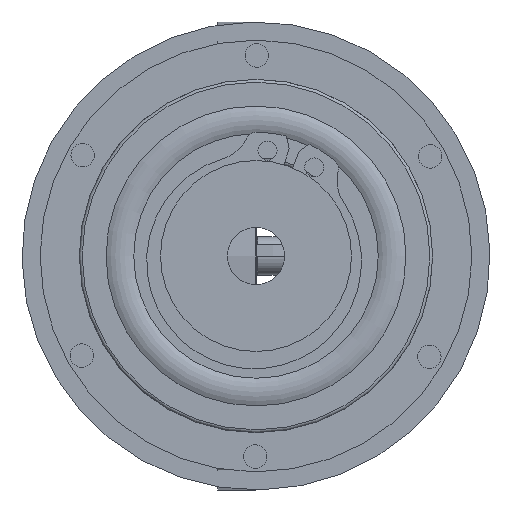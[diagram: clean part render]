
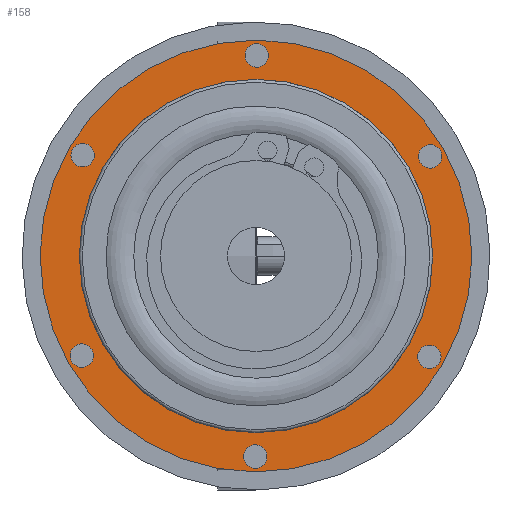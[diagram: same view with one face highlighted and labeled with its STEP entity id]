
A CAD part, left-side view. The second image highlights one B-rep face of the part: STEP entity #158.
In plain terms, the highlighted planar face has unit normal (-1, 0, 0).
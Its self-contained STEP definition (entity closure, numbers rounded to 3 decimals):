
#158 = ADVANCED_FACE( '', ( #262, #263, #264, #265, #266, #267, #268, #269 ), #270, .T. );
#262 = FACE_OUTER_BOUND( '', #398, .T. );
#263 = FACE_BOUND( '', #399, .T. );
#264 = FACE_BOUND( '', #400, .T. );
#265 = FACE_BOUND( '', #401, .T. );
#266 = FACE_BOUND( '', #402, .T. );
#267 = FACE_BOUND( '', #403, .T. );
#268 = FACE_BOUND( '', #404, .T. );
#269 = FACE_BOUND( '', #405, .T. );
#270 = PLANE( '', #406 );
#398 = EDGE_LOOP( '', ( #622 ) );
#399 = EDGE_LOOP( '', ( #623 ) );
#400 = EDGE_LOOP( '', ( #624 ) );
#401 = EDGE_LOOP( '', ( #625 ) );
#402 = EDGE_LOOP( '', ( #626 ) );
#403 = EDGE_LOOP( '', ( #627 ) );
#404 = EDGE_LOOP( '', ( #628 ) );
#405 = EDGE_LOOP( '', ( #629 ) );
#406 = AXIS2_PLACEMENT_3D( '', #630, #631, #632 );
#622 = ORIENTED_EDGE( '', *, *, #1001, .T. );
#623 = ORIENTED_EDGE( '', *, *, #993, .T. );
#624 = ORIENTED_EDGE( '', *, *, #1002, .T. );
#625 = ORIENTED_EDGE( '', *, *, #998, .T. );
#626 = ORIENTED_EDGE( '', *, *, #1003, .T. );
#627 = ORIENTED_EDGE( '', *, *, #1004, .T. );
#628 = ORIENTED_EDGE( '', *, *, #1005, .T. );
#629 = ORIENTED_EDGE( '', *, *, #1006, .F. );
#630 = CARTESIAN_POINT( '', ( 0., 18.5, 0. ) );
#631 = DIRECTION( '', ( -1., 0., 0. ) );
#632 = DIRECTION( '', ( 0., 0., 1. ) );
#993 = EDGE_CURVE( '', #1313, #1313, #1314, .T. );
#998 = EDGE_CURVE( '', #1321, #1321, #1322, .T. );
#1001 = EDGE_CURVE( '', #1326, #1326, #1327, .T. );
#1002 = EDGE_CURVE( '', #1328, #1328, #1329, .T. );
#1003 = EDGE_CURVE( '', #1330, #1330, #1331, .T. );
#1004 = EDGE_CURVE( '', #1332, #1332, #1333, .T. );
#1005 = EDGE_CURVE( '', #1334, #1334, #1335, .T. );
#1006 = EDGE_CURVE( '', #1336, #1336, #1337, .T. );
#1313 = VERTEX_POINT( '', #2068 );
#1314 = CIRCLE( '', #2069, 1.23 );
#1321 = VERTEX_POINT( '', #2076 );
#1322 = CIRCLE( '', #2077, 1.23 );
#1326 = VERTEX_POINT( '', #2081 );
#1327 = CIRCLE( '', #2082, 22.6 );
#1328 = VERTEX_POINT( '', #2083 );
#1329 = CIRCLE( '', #2084, 1.23 );
#1330 = VERTEX_POINT( '', #2085 );
#1331 = CIRCLE( '', #2086, 1.23 );
#1332 = VERTEX_POINT( '', #2087 );
#1333 = CIRCLE( '', #2088, 1.23 );
#1334 = VERTEX_POINT( '', #2089 );
#1335 = CIRCLE( '', #2090, 1.23 );
#1336 = VERTEX_POINT( '', #2091 );
#1337 = CIRCLE( '', #2092, 18.5 );
#2068 = CARTESIAN_POINT( '', ( 0., 11.565, -17.572 ) );
#2069 = AXIS2_PLACEMENT_3D( '', #2311, #2312, #2313 );
#2076 = CARTESIAN_POINT( '', ( 0., -21., -1.23 ) );
#2077 = AXIS2_PLACEMENT_3D( '', #2320, #2321, #2322 );
#2081 = CARTESIAN_POINT( '', ( 0., 0., 22.6 ) );
#2082 = AXIS2_PLACEMENT_3D( '', #2326, #2327, #2328 );
#2083 = CARTESIAN_POINT( '', ( 0., -9.435, -18.801 ) );
#2084 = AXIS2_PLACEMENT_3D( '', #2329, #2330, #2331 );
#2085 = CARTESIAN_POINT( '', ( 0., -11.565, 17.572 ) );
#2086 = AXIS2_PLACEMENT_3D( '', #2332, #2333, #2334 );
#2087 = CARTESIAN_POINT( '', ( 0., 9.435, 18.801 ) );
#2088 = AXIS2_PLACEMENT_3D( '', #2335, #2336, #2337 );
#2089 = CARTESIAN_POINT( '', ( 0., 21., 1.23 ) );
#2090 = AXIS2_PLACEMENT_3D( '', #2338, #2339, #2340 );
#2091 = CARTESIAN_POINT( '', ( 0., 0., 18.5 ) );
#2092 = AXIS2_PLACEMENT_3D( '', #2341, #2342, #2343 );
#2311 = CARTESIAN_POINT( '', ( 0., 10.5, -18.187 ) );
#2312 = DIRECTION( '', ( 1., 0., 0. ) );
#2313 = DIRECTION( '', ( 0., 0.866, 0.5 ) );
#2320 = CARTESIAN_POINT( '', ( 0., -21., 0. ) );
#2321 = DIRECTION( '', ( 1., 0., 0. ) );
#2322 = DIRECTION( '', ( 0., 0., -1. ) );
#2326 = CARTESIAN_POINT( '', ( 0., 0., 0. ) );
#2327 = DIRECTION( '', ( -1., 0., 0. ) );
#2328 = DIRECTION( '', ( 0., 0., 1. ) );
#2329 = CARTESIAN_POINT( '', ( 0., -10.5, -18.187 ) );
#2330 = DIRECTION( '', ( 1., 0., 0. ) );
#2331 = DIRECTION( '', ( 0., 0.866, -0.5 ) );
#2332 = CARTESIAN_POINT( '', ( 0., -10.5, 18.187 ) );
#2333 = DIRECTION( '', ( 1., 0., 0. ) );
#2334 = DIRECTION( '', ( 0., -0.866, -0.5 ) );
#2335 = CARTESIAN_POINT( '', ( 0., 10.5, 18.187 ) );
#2336 = DIRECTION( '', ( 1., 0., 0. ) );
#2337 = DIRECTION( '', ( 0., -0.866, 0.5 ) );
#2338 = CARTESIAN_POINT( '', ( 0., 21., 0. ) );
#2339 = DIRECTION( '', ( 1., 0., 0. ) );
#2340 = DIRECTION( '', ( 0., 0., 1. ) );
#2341 = CARTESIAN_POINT( '', ( 0., 0., 0. ) );
#2342 = DIRECTION( '', ( -1., 0., 0. ) );
#2343 = DIRECTION( '', ( 0., 0., 1. ) );
